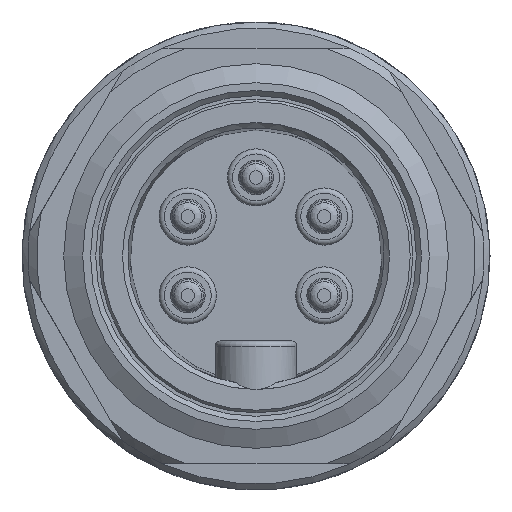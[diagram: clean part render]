
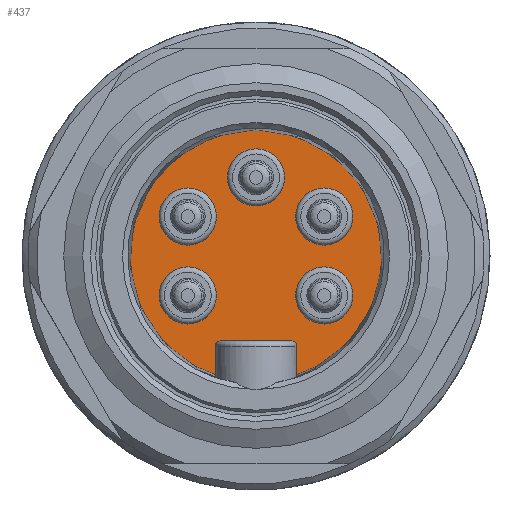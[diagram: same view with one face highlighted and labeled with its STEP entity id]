
A CAD part, left-side view. The second image highlights one B-rep face of the part: STEP entity #437.
In plain terms, the highlighted planar face has unit normal (-1, 0, 0).
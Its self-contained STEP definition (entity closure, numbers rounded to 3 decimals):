
#290=LINE('',#2829,#363);
#291=LINE('',#2834,#364);
#292=LINE('',#2838,#365);
#363=VECTOR('',#2250,1.);
#364=VECTOR('',#2253,1.);
#365=VECTOR('',#2256,1.);
#437=ADVANCED_FACE('',(#618,#619,#620,#621,#622,#623),#572,.F.);
#572=PLANE('',#1990);
#618=FACE_BOUND('',#758,.T.);
#619=FACE_BOUND('',#759,.T.);
#620=FACE_BOUND('',#760,.T.);
#621=FACE_BOUND('',#761,.T.);
#622=FACE_BOUND('',#762,.T.);
#623=FACE_BOUND('',#763,.T.);
#758=EDGE_LOOP('',(#965));
#759=EDGE_LOOP('',(#966));
#760=EDGE_LOOP('',(#967));
#761=EDGE_LOOP('',(#968));
#762=EDGE_LOOP('',(#969));
#763=EDGE_LOOP('',(#970,#971,#972,#973,#974,#975));
#965=ORIENTED_EDGE('',*,*,#1615,.F.);
#966=ORIENTED_EDGE('',*,*,#1616,.T.);
#967=ORIENTED_EDGE('',*,*,#1617,.T.);
#968=ORIENTED_EDGE('',*,*,#1618,.F.);
#969=ORIENTED_EDGE('',*,*,#1619,.F.);
#970=ORIENTED_EDGE('',*,*,#1620,.T.);
#971=ORIENTED_EDGE('',*,*,#1621,.T.);
#972=ORIENTED_EDGE('',*,*,#1622,.T.);
#973=ORIENTED_EDGE('',*,*,#1623,.T.);
#974=ORIENTED_EDGE('',*,*,#1624,.F.);
#975=ORIENTED_EDGE('',*,*,#1625,.T.);
#1439=VERTEX_POINT('',#2820);
#1440=VERTEX_POINT('',#2822);
#1441=VERTEX_POINT('',#2824);
#1442=VERTEX_POINT('',#2826);
#1443=VERTEX_POINT('',#2828);
#1444=VERTEX_POINT('',#2830);
#1445=VERTEX_POINT('',#2831);
#1446=VERTEX_POINT('',#2833);
#1447=VERTEX_POINT('',#2835);
#1448=VERTEX_POINT('',#2837);
#1449=VERTEX_POINT('',#2839);
#1615=EDGE_CURVE('',#1439,#1439,#1852,.T.);
#1616=EDGE_CURVE('',#1440,#1440,#1853,.T.);
#1617=EDGE_CURVE('',#1441,#1441,#1854,.T.);
#1618=EDGE_CURVE('',#1442,#1442,#1855,.T.);
#1619=EDGE_CURVE('',#1443,#1443,#1856,.T.);
#1620=EDGE_CURVE('',#1444,#1445,#290,.T.);
#1621=EDGE_CURVE('',#1445,#1446,#1857,.T.);
#1622=EDGE_CURVE('',#1446,#1447,#291,.T.);
#1623=EDGE_CURVE('',#1447,#1448,#1858,.T.);
#1624=EDGE_CURVE('',#1449,#1448,#292,.T.);
#1625=EDGE_CURVE('',#1449,#1444,#1859,.T.);
#1852=CIRCLE('',#1982,1.65);
#1853=CIRCLE('',#1983,1.65);
#1854=CIRCLE('',#1984,1.65);
#1855=CIRCLE('',#1985,1.65);
#1856=CIRCLE('',#1986,1.65);
#1857=CIRCLE('',#1987,0.3);
#1858=CIRCLE('',#1988,0.3);
#1859=CIRCLE('',#1989,7.25);
#1982=AXIS2_PLACEMENT_3D('',#2819,#2240,#2241);
#1983=AXIS2_PLACEMENT_3D('',#2821,#2242,#2243);
#1984=AXIS2_PLACEMENT_3D('',#2823,#2244,#2245);
#1985=AXIS2_PLACEMENT_3D('',#2825,#2246,#2247);
#1986=AXIS2_PLACEMENT_3D('',#2827,#2248,#2249);
#1987=AXIS2_PLACEMENT_3D('',#2832,#2251,#2252);
#1988=AXIS2_PLACEMENT_3D('',#2836,#2254,#2255);
#1989=AXIS2_PLACEMENT_3D('',#2840,#2257,#2258);
#1990=AXIS2_PLACEMENT_3D('',#2841,#2259,#2260);
#2240=DIRECTION('',(-1.,0.,0.));
#2241=DIRECTION('',(0.,0.,1.));
#2242=DIRECTION('',(1.,0.,0.));
#2243=DIRECTION('',(0.,0.,-1.));
#2244=DIRECTION('',(1.,0.,0.));
#2245=DIRECTION('',(0.,0.,-1.));
#2246=DIRECTION('',(-1.,0.,0.));
#2247=DIRECTION('',(0.,0.,1.));
#2248=DIRECTION('',(-1.,0.,0.));
#2249=DIRECTION('',(0.,0.,1.));
#2250=DIRECTION('',(0.,0.,1.));
#2251=DIRECTION('',(1.,0.,0.));
#2252=DIRECTION('',(0.,0.,-1.));
#2253=DIRECTION('',(0.,-1.,0.));
#2254=DIRECTION('',(1.,0.,0.));
#2255=DIRECTION('',(0.,0.,-1.));
#2256=DIRECTION('',(0.,0.,1.));
#2257=DIRECTION('',(-1.,0.,0.));
#2258=DIRECTION('',(0.,0.,1.));
#2259=DIRECTION('',(1.,0.,0.));
#2260=DIRECTION('',(0.,0.,-1.));
#2819=CARTESIAN_POINT('',(7.3,0.,4.535));
#2820=CARTESIAN_POINT('',(7.3,0.,6.185));
#2821=CARTESIAN_POINT('',(7.3,-3.935,-2.275));
#2822=CARTESIAN_POINT('',(7.3,-3.935,-3.925));
#2823=CARTESIAN_POINT('',(7.3,3.935,-2.275));
#2824=CARTESIAN_POINT('',(7.3,3.935,-3.925));
#2825=CARTESIAN_POINT('',(7.3,3.935,2.275));
#2826=CARTESIAN_POINT('',(7.3,3.935,3.925));
#2827=CARTESIAN_POINT('',(7.3,-3.935,2.275));
#2828=CARTESIAN_POINT('',(7.3,-3.935,3.925));
#2829=CARTESIAN_POINT('',(7.3,2.35,-7.017));
#2830=CARTESIAN_POINT('',(7.3,2.35,-6.859));
#2831=CARTESIAN_POINT('',(7.3,2.35,-5.2));
#2832=CARTESIAN_POINT('',(7.3,2.05,-5.2));
#2833=CARTESIAN_POINT('',(7.3,2.05,-4.9));
#2834=CARTESIAN_POINT('',(7.3,2.35,-4.9));
#2835=CARTESIAN_POINT('',(7.3,-2.05,-4.9));
#2836=CARTESIAN_POINT('',(7.3,-2.05,-5.2));
#2837=CARTESIAN_POINT('',(7.3,-2.35,-5.2));
#2838=CARTESIAN_POINT('',(7.3,-2.35,-7.017));
#2839=CARTESIAN_POINT('',(7.3,-2.35,-6.859));
#2840=CARTESIAN_POINT('',(7.3,0.,0.));
#2841=CARTESIAN_POINT('',(7.3,0.,0.));
